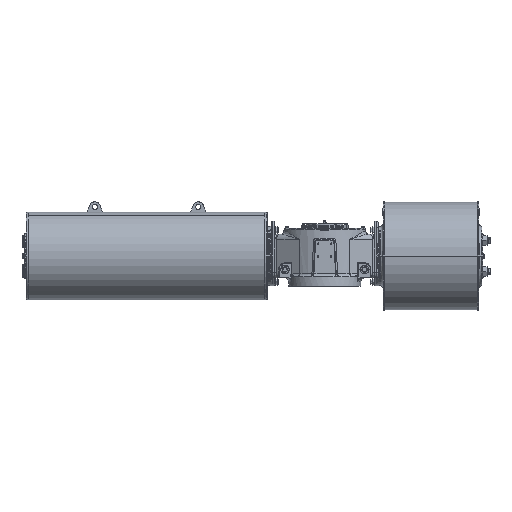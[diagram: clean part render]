
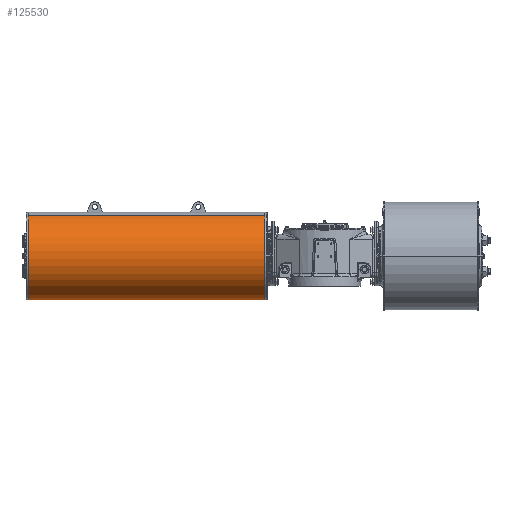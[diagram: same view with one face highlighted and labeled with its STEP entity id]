
A CAD part, front view. The second image highlights one B-rep face of the part: STEP entity #125530.
In plain terms, the highlighted cylindrical face has radius 340 mm (diameter 680 mm), a partial arc.
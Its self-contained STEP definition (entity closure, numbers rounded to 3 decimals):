
#84 = DIRECTION ( 'NONE',  ( 1., 0., 0. ) ) ;
#7918 = CARTESIAN_POINT ( 'NONE',  ( -462.615, 203., 168. ) ) ;
#10505 = VERTEX_POINT ( 'NONE', #62367 ) ;
#15990 = VERTEX_POINT ( 'NONE', #90766 ) ;
#17471 = ORIENTED_EDGE ( 'NONE', *, *, #123029, .T. ) ;
#26320 = DIRECTION ( 'NONE',  ( -1., 0., 0. ) ) ;
#26978 = DIRECTION ( 'NONE',  ( 0., -0.402, 0.916 ) ) ;
#29035 = ORIENTED_EDGE ( 'NONE', *, *, #59134, .T. ) ;
#29679 = CARTESIAN_POINT ( 'NONE',  ( -2298., 66.339, 479.326 ) ) ;
#30379 = FACE_OUTER_BOUND ( 'NONE', #98489, .T. ) ;
#31160 = EDGE_CURVE ( 'NONE', #10505, #107512, #67449, .T. ) ;
#35128 = EDGE_CURVE ( 'NONE', #10505, #109693, #48730, .T. ) ;
#40014 = DIRECTION ( 'NONE',  ( 1., 0., 0. ) ) ;
#46844 = DIRECTION ( 'NONE',  ( 0., -0.402, 0.916 ) ) ;
#48730 = LINE ( 'NONE', #29679, #79572 ) ;
#51616 = ORIENTED_EDGE ( 'NONE', *, *, #31160, .T. ) ;
#52185 = CIRCLE ( 'NONE', #125471, 340. ) ;
#59134 = EDGE_CURVE ( 'NONE', #107512, #15990, #60398, .T. ) ;
#60398 = LINE ( 'NONE', #61683, #119299 ) ;
#61683 = CARTESIAN_POINT ( 'NONE',  ( -2298., 339.661, -143.326 ) ) ;
#62367 = CARTESIAN_POINT ( 'NONE',  ( -2293.385, 66.339, 479.326 ) ) ;
#64297 = ORIENTED_EDGE ( 'NONE', *, *, #35128, .F. ) ;
#67449 = CIRCLE ( 'NONE', #90581, 340. ) ;
#74286 = CARTESIAN_POINT ( 'NONE',  ( -462.615, 66.339, 479.326 ) ) ;
#75387 = AXIS2_PLACEMENT_3D ( 'NONE', #91380, #110435, #100602 ) ;
#78340 = CARTESIAN_POINT ( 'NONE',  ( -2293.385, 203., 168. ) ) ;
#79572 = VECTOR ( 'NONE', #84, 1000. ) ;
#90581 = AXIS2_PLACEMENT_3D ( 'NONE', #78340, #118322, #46844 ) ;
#90766 = CARTESIAN_POINT ( 'NONE',  ( -462.615, 339.661, -143.326 ) ) ;
#91380 = CARTESIAN_POINT ( 'NONE',  ( -2298., 203., 168. ) ) ;
#98281 = CARTESIAN_POINT ( 'NONE',  ( -2293.385, 339.661, -143.326 ) ) ;
#98489 = EDGE_LOOP ( 'NONE', ( #64297, #51616, #29035, #17471 ) ) ;
#99951 = CYLINDRICAL_SURFACE ( 'NONE', #75387, 340. ) ;
#100602 = DIRECTION ( 'NONE',  ( 0., 0.402, -0.916 ) ) ;
#107512 = VERTEX_POINT ( 'NONE', #98281 ) ;
#109693 = VERTEX_POINT ( 'NONE', #74286 ) ;
#110435 = DIRECTION ( 'NONE',  ( 1., 0., 0. ) ) ;
#118322 = DIRECTION ( 'NONE',  ( 1., 0., 0. ) ) ;
#119299 = VECTOR ( 'NONE', #40014, 1000. ) ;
#123029 = EDGE_CURVE ( 'NONE', #15990, #109693, #52185, .T. ) ;
#125471 = AXIS2_PLACEMENT_3D ( 'NONE', #7918, #26320, #26978 ) ;
#125530 = ADVANCED_FACE ( 'NONE', ( #30379 ), #99951, .T. ) ;
